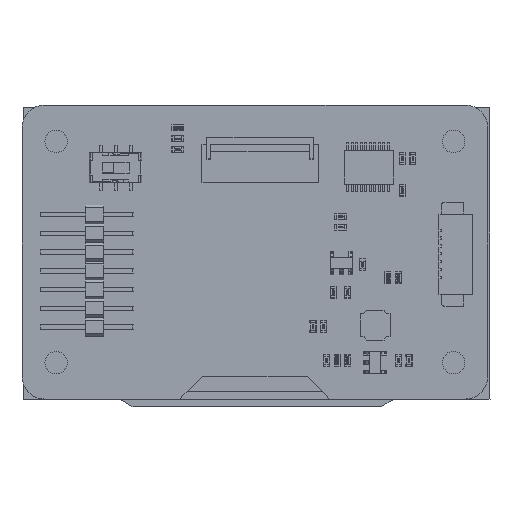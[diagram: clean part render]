
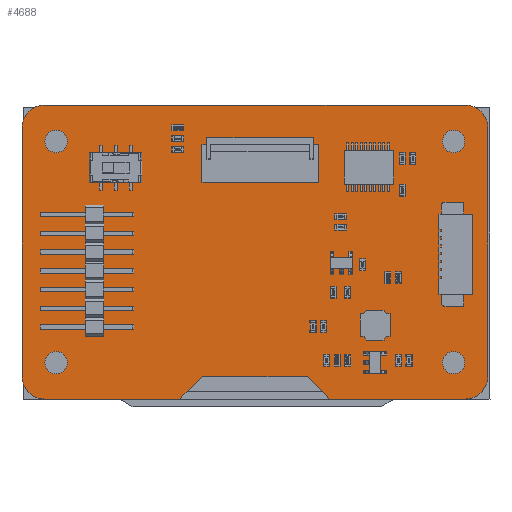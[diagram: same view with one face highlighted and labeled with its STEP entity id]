
A CAD part, top view. The second image highlights one B-rep face of the part: STEP entity #4688.
In plain terms, the highlighted planar face has unit normal (0, 0, 1).
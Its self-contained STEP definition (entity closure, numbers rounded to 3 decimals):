
#741=FACE_BOUND('',#6982,.T.);
#742=FACE_BOUND('',#6983,.T.);
#743=FACE_BOUND('',#6984,.T.);
#744=FACE_BOUND('',#6985,.T.);
#745=FACE_BOUND('',#6986,.T.);
#3629=PLANE('',#21881);
#4688=ADVANCED_FACE('',(#741,#742,#743,#744,#745),#3629,.T.);
#6982=EDGE_LOOP('',(#14229));
#6983=EDGE_LOOP('',(#14230));
#6984=EDGE_LOOP('',(#14231));
#6985=EDGE_LOOP('',(#14232));
#6986=EDGE_LOOP('',(#14233,#14234,#14235,#14236,#14237,#14238,#14239,#14240,
#14241,#14242,#14243,#14244));
#8400=LINE('',#38887,#10497);
#8404=LINE('',#38896,#10501);
#8405=LINE('',#38898,#10502);
#8411=LINE('',#38911,#10508);
#8414=LINE('',#38917,#10511);
#8417=LINE('',#38923,#10514);
#8420=LINE('',#38929,#10517);
#8421=LINE('',#38931,#10518);
#10497=VECTOR('',#24401,1.);
#10501=VECTOR('',#24407,1.);
#10502=VECTOR('',#24410,1.);
#10508=VECTOR('',#24418,1.);
#10511=VECTOR('',#24423,1.);
#10514=VECTOR('',#24428,1.);
#10517=VECTOR('',#24433,1.);
#10518=VECTOR('',#24436,1.);
#14229=ORIENTED_EDGE('',*,*,#19825,.F.);
#14230=ORIENTED_EDGE('',*,*,#19826,.F.);
#14231=ORIENTED_EDGE('',*,*,#19827,.F.);
#14232=ORIENTED_EDGE('',*,*,#19828,.F.);
#14233=ORIENTED_EDGE('',*,*,#19820,.T.);
#14234=ORIENTED_EDGE('',*,*,#19829,.T.);
#14235=ORIENTED_EDGE('',*,*,#19821,.T.);
#14236=ORIENTED_EDGE('',*,*,#19830,.T.);
#14237=ORIENTED_EDGE('',*,*,#19800,.T.);
#14238=ORIENTED_EDGE('',*,*,#19831,.T.);
#14239=ORIENTED_EDGE('',*,*,#19804,.T.);
#14240=ORIENTED_EDGE('',*,*,#19832,.T.);
#14241=ORIENTED_EDGE('',*,*,#19805,.T.);
#14242=ORIENTED_EDGE('',*,*,#19811,.T.);
#14243=ORIENTED_EDGE('',*,*,#19814,.T.);
#14244=ORIENTED_EDGE('',*,*,#19817,.T.);
#17695=VERTEX_POINT('',#38881);
#17698=VERTEX_POINT('',#38886);
#17699=VERTEX_POINT('',#38890);
#17702=VERTEX_POINT('',#38895);
#17703=VERTEX_POINT('',#38899);
#17704=VERTEX_POINT('',#38900);
#17708=VERTEX_POINT('',#38910);
#17710=VERTEX_POINT('',#38916);
#17712=VERTEX_POINT('',#38922);
#17714=VERTEX_POINT('',#38928);
#17715=VERTEX_POINT('',#38932);
#17716=VERTEX_POINT('',#38933);
#17719=VERTEX_POINT('',#38941);
#17720=VERTEX_POINT('',#38943);
#17721=VERTEX_POINT('',#38945);
#17722=VERTEX_POINT('',#38947);
#19800=EDGE_CURVE('',#17695,#17698,#8400,.T.);
#19804=EDGE_CURVE('',#17699,#17702,#8404,.T.);
#19805=EDGE_CURVE('',#17703,#17704,#8405,.T.);
#19811=EDGE_CURVE('',#17704,#17708,#8411,.T.);
#19814=EDGE_CURVE('',#17708,#17710,#8414,.T.);
#19817=EDGE_CURVE('',#17710,#17712,#8417,.T.);
#19820=EDGE_CURVE('',#17712,#17714,#8420,.T.);
#19821=EDGE_CURVE('',#17715,#17716,#8421,.T.);
#19825=EDGE_CURVE('',#17719,#17719,#21300,.T.);
#19826=EDGE_CURVE('',#17720,#17720,#21301,.T.);
#19827=EDGE_CURVE('',#17721,#17721,#21302,.T.);
#19828=EDGE_CURVE('',#17722,#17722,#21303,.T.);
#19829=EDGE_CURVE('',#17714,#17715,#21304,.T.);
#19830=EDGE_CURVE('',#17716,#17695,#21305,.T.);
#19831=EDGE_CURVE('',#17698,#17699,#21306,.T.);
#19832=EDGE_CURVE('',#17702,#17703,#21307,.T.);
#21300=CIRCLE('',#21873,1.5);
#21301=CIRCLE('',#21874,1.5);
#21302=CIRCLE('',#21875,1.5);
#21303=CIRCLE('',#21876,1.5);
#21304=CIRCLE('',#21877,3.);
#21305=CIRCLE('',#21878,3.);
#21306=CIRCLE('',#21879,3.);
#21307=CIRCLE('',#21880,3.);
#21873=AXIS2_PLACEMENT_3D('',#38940,#24442,#24443);
#21874=AXIS2_PLACEMENT_3D('',#38942,#24444,#24445);
#21875=AXIS2_PLACEMENT_3D('',#38944,#24446,#24447);
#21876=AXIS2_PLACEMENT_3D('',#38946,#24448,#24449);
#21877=AXIS2_PLACEMENT_3D('',#38948,#24450,#24451);
#21878=AXIS2_PLACEMENT_3D('',#38949,#24452,#24453);
#21879=AXIS2_PLACEMENT_3D('',#38950,#24454,#24455);
#21880=AXIS2_PLACEMENT_3D('',#38951,#24456,#24457);
#21881=AXIS2_PLACEMENT_3D('',#38952,#24458,#24459);
#24401=DIRECTION('',(1.,0.,0.));
#24407=DIRECTION('',(0.,1.,0.));
#24410=DIRECTION('',(-1.,0.,0.));
#24418=DIRECTION('',(-0.707,-0.707,0.));
#24423=DIRECTION('',(-1.,0.,0.));
#24428=DIRECTION('',(-0.707,0.707,0.));
#24433=DIRECTION('',(-1.,0.,0.));
#24436=DIRECTION('',(0.,-1.,0.));
#24442=DIRECTION('',(0.,0.,1.));
#24443=DIRECTION('',(1.,0.,0.));
#24444=DIRECTION('',(0.,0.,1.));
#24445=DIRECTION('',(1.,0.,0.));
#24446=DIRECTION('',(0.,0.,1.));
#24447=DIRECTION('',(1.,0.,0.));
#24448=DIRECTION('',(0.,0.,1.));
#24449=DIRECTION('',(1.,0.,0.));
#24450=DIRECTION('',(0.,0.,1.));
#24451=DIRECTION('',(1.,0.,0.));
#24452=DIRECTION('',(0.,0.,1.));
#24453=DIRECTION('',(1.,0.,0.));
#24454=DIRECTION('',(0.,0.,1.));
#24455=DIRECTION('',(1.,0.,0.));
#24456=DIRECTION('',(0.,0.,1.));
#24457=DIRECTION('',(1.,0.,0.));
#24458=DIRECTION('',(0.,0.,1.));
#24459=DIRECTION('',(-1.,0.,0.));
#38881=CARTESIAN_POINT('',(-28.05,-19.6,1.));
#38886=CARTESIAN_POINT('',(28.05,-19.6,1.));
#38887=CARTESIAN_POINT('',(-31.5,-19.6,1.));
#38890=CARTESIAN_POINT('',(31.05,-16.6,1.));
#38895=CARTESIAN_POINT('',(31.05,16.6,1.));
#38896=CARTESIAN_POINT('',(31.05,-21.25,1.));
#38898=CARTESIAN_POINT('',(31.5,19.6,1.));
#38899=CARTESIAN_POINT('',(28.05,19.6,1.));
#38900=CARTESIAN_POINT('',(10.,19.6,1.));
#38910=CARTESIAN_POINT('',(7.,16.6,1.));
#38911=CARTESIAN_POINT('',(10.,19.6,1.));
#38916=CARTESIAN_POINT('',(-7.,16.6,1.));
#38917=CARTESIAN_POINT('',(7.,16.6,1.));
#38922=CARTESIAN_POINT('',(-10.,19.6,1.));
#38923=CARTESIAN_POINT('',(-7.,16.6,1.));
#38928=CARTESIAN_POINT('',(-28.05,19.6,1.));
#38929=CARTESIAN_POINT('',(-10.,19.6,1.));
#38931=CARTESIAN_POINT('',(-31.05,21.25,1.));
#38932=CARTESIAN_POINT('',(-31.05,16.6,1.));
#38933=CARTESIAN_POINT('',(-31.05,-16.6,1.));
#38940=CARTESIAN_POINT('',(26.5,14.75,1.));
#38941=CARTESIAN_POINT('',(28.,14.75,1.));
#38942=CARTESIAN_POINT('',(-26.5,14.75,1.));
#38943=CARTESIAN_POINT('',(-25.,14.75,1.));
#38944=CARTESIAN_POINT('',(-26.5,-14.75,1.));
#38945=CARTESIAN_POINT('',(-25.,-14.75,1.));
#38946=CARTESIAN_POINT('',(26.5,-14.75,1.));
#38947=CARTESIAN_POINT('',(28.,-14.75,1.));
#38948=CARTESIAN_POINT('',(-28.05,16.6,1.));
#38949=CARTESIAN_POINT('',(-28.05,-16.6,1.));
#38950=CARTESIAN_POINT('',(28.05,-16.6,1.));
#38951=CARTESIAN_POINT('',(28.05,16.6,1.));
#38952=CARTESIAN_POINT('',(0.,0.,1.));
